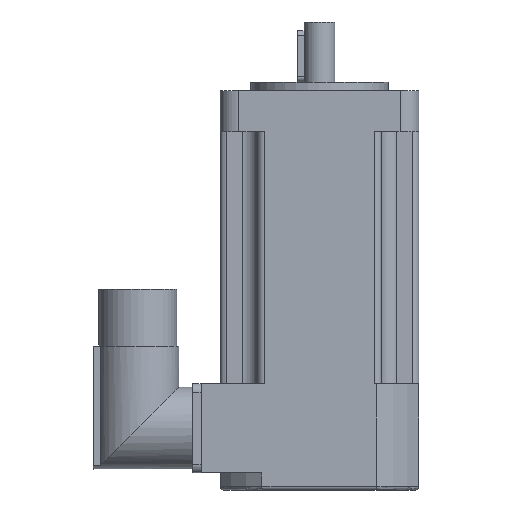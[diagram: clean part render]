
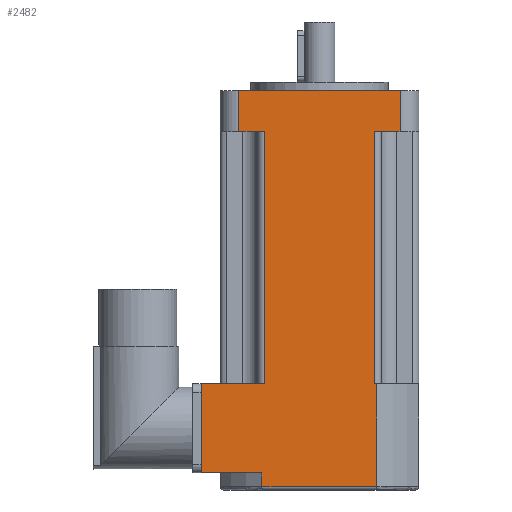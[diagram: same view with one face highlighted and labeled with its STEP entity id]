
A CAD part, left-side view. The second image highlights one B-rep face of the part: STEP entity #2482.
In plain terms, the highlighted planar face has unit normal (-1, 0, 0).
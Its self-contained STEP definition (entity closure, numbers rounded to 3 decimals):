
#99=LINE('',#3835,#320);
#122=LINE('',#3903,#343);
#138=LINE('',#3952,#359);
#139=LINE('',#3955,#360);
#142=LINE('',#3961,#363);
#165=LINE('',#4021,#386);
#166=LINE('',#4026,#387);
#188=LINE('',#4075,#409);
#191=LINE('',#4084,#412);
#199=LINE('',#4220,#420);
#201=LINE('',#4242,#422);
#203=LINE('',#4247,#424);
#204=LINE('',#4249,#425);
#205=LINE('',#4250,#426);
#320=VECTOR('',#3044,7.425);
#343=VECTOR('',#3107,7.425);
#359=VECTOR('',#3163,12.);
#360=VECTOR('',#3166,12.);
#363=VECTOR('',#3173,47.);
#386=VECTOR('',#3238,73.5);
#387=VECTOR('',#3243,73.5);
#409=VECTOR('',#3287,18.425);
#412=VECTOR('',#3296,0.696);
#420=VECTOR('',#3332,33.541);
#422=VECTOR('',#3342,4.);
#424=VECTOR('',#3348,30.);
#425=VECTOR('',#3349,26.);
#426=VECTOR('',#3350,17.729);
#524=PLANE('',#2718);
#732=FACE_OUTER_BOUND('',#888,.T.);
#888=EDGE_LOOP('',(#2152,#2153,#2154,#2155,#2156,#2157,#2158,#2159,#2160,
#2161,#2162,#2163,#2164,#2165));
#1148=VERTEX_POINT('',#3832);
#1149=VERTEX_POINT('',#3834);
#1173=VERTEX_POINT('',#3900);
#1174=VERTEX_POINT('',#3902);
#1187=VERTEX_POINT('',#3950);
#1188=VERTEX_POINT('',#3954);
#1205=VERTEX_POINT('',#4019);
#1206=VERTEX_POINT('',#4023);
#1223=VERTEX_POINT('',#4073);
#1226=VERTEX_POINT('',#4083);
#1240=VERTEX_POINT('',#4200);
#1242=VERTEX_POINT('',#4219);
#1244=VERTEX_POINT('',#4241);
#1246=VERTEX_POINT('',#4248);
#1417=EDGE_CURVE('',#1149,#1148,#99,.T.);
#1451=EDGE_CURVE('',#1174,#1173,#122,.T.);
#1476=EDGE_CURVE('',#1148,#1187,#138,.T.);
#1477=EDGE_CURVE('',#1174,#1188,#139,.T.);
#1481=EDGE_CURVE('',#1188,#1187,#142,.T.);
#1512=EDGE_CURVE('',#1205,#1149,#165,.T.);
#1514=EDGE_CURVE('',#1206,#1173,#166,.T.);
#1539=EDGE_CURVE('',#1223,#1206,#188,.T.);
#1543=EDGE_CURVE('',#1205,#1226,#191,.T.);
#1565=EDGE_CURVE('',#1242,#1240,#199,.T.);
#1570=EDGE_CURVE('',#1244,#1240,#201,.T.);
#1573=EDGE_CURVE('',#1242,#1226,#203,.T.);
#1574=EDGE_CURVE('',#1223,#1246,#204,.T.);
#1575=EDGE_CURVE('',#1244,#1246,#205,.T.);
#2152=ORIENTED_EDGE('',*,*,#1565,.F.);
#2153=ORIENTED_EDGE('',*,*,#1573,.T.);
#2154=ORIENTED_EDGE('',*,*,#1543,.F.);
#2155=ORIENTED_EDGE('',*,*,#1512,.T.);
#2156=ORIENTED_EDGE('',*,*,#1417,.T.);
#2157=ORIENTED_EDGE('',*,*,#1476,.T.);
#2158=ORIENTED_EDGE('',*,*,#1481,.F.);
#2159=ORIENTED_EDGE('',*,*,#1477,.F.);
#2160=ORIENTED_EDGE('',*,*,#1451,.T.);
#2161=ORIENTED_EDGE('',*,*,#1514,.F.);
#2162=ORIENTED_EDGE('',*,*,#1539,.F.);
#2163=ORIENTED_EDGE('',*,*,#1574,.T.);
#2164=ORIENTED_EDGE('',*,*,#1575,.F.);
#2165=ORIENTED_EDGE('',*,*,#1570,.T.);
#2482=ADVANCED_FACE('',(#732),#524,.T.);
#2718=AXIS2_PLACEMENT_3D('',#4246,#3346,#3347);
#3044=DIRECTION('',(0.,-1.,0.));
#3107=DIRECTION('',(0.,-1.,0.));
#3163=DIRECTION('',(0.,0.,1.));
#3166=DIRECTION('',(0.,0.,1.));
#3173=DIRECTION('',(0.,-1.,0.));
#3238=DIRECTION('',(0.,0.,1.));
#3243=DIRECTION('',(0.,0.,1.));
#3287=DIRECTION('',(0.,-1.,0.));
#3296=DIRECTION('',(0.,-1.,0.));
#3332=DIRECTION('',(0.,1.,0.));
#3342=DIRECTION('',(0.,0.,-1.));
#3346=DIRECTION('center_axis',(-1.,0.,0.));
#3347=DIRECTION('ref_axis',(0.,-1.,0.));
#3348=DIRECTION('',(0.,0.,1.));
#3349=DIRECTION('',(0.,0.,-1.));
#3350=DIRECTION('',(0.,1.,0.));
#3832=CARTESIAN_POINT('',(-29.,-23.5,86.5));
#3834=CARTESIAN_POINT('',(-29.,-16.075,86.5));
#3835=CARTESIAN_POINT('',(-29.,23.5,86.5));
#3900=CARTESIAN_POINT('',(-29.,16.075,86.5));
#3902=CARTESIAN_POINT('',(-29.,23.5,86.5));
#3903=CARTESIAN_POINT('',(-29.,23.5,86.5));
#3950=CARTESIAN_POINT('',(-29.,-23.5,98.5));
#3952=CARTESIAN_POINT('',(-29.,-23.5,86.5));
#3954=CARTESIAN_POINT('',(-29.,23.5,98.5));
#3955=CARTESIAN_POINT('',(-29.,23.5,86.5));
#3961=CARTESIAN_POINT('',(-29.,23.5,98.5));
#4019=CARTESIAN_POINT('',(-29.,-16.075,13.));
#4021=CARTESIAN_POINT('',(-29.,-16.075,13.));
#4023=CARTESIAN_POINT('',(-29.,16.075,13.));
#4026=CARTESIAN_POINT('',(-29.,16.075,13.));
#4073=CARTESIAN_POINT('',(-29.,34.5,13.));
#4075=CARTESIAN_POINT('',(-29.,34.5,13.));
#4083=CARTESIAN_POINT('',(-29.,-16.771,13.));
#4084=CARTESIAN_POINT('',(-29.,34.5,13.));
#4200=CARTESIAN_POINT('',(-29.,16.771,-17.));
#4219=CARTESIAN_POINT('',(-29.,-16.771,-17.));
#4220=CARTESIAN_POINT('',(-29.,17.25,-17.));
#4241=CARTESIAN_POINT('',(-29.,16.771,-13.));
#4242=CARTESIAN_POINT('',(-29.,16.771,-13.));
#4246=CARTESIAN_POINT('Origin',(-29.,34.5,0.));
#4247=CARTESIAN_POINT('',(-29.,-16.771,0.));
#4248=CARTESIAN_POINT('',(-29.,34.5,-13.));
#4249=CARTESIAN_POINT('',(-29.,34.5,0.));
#4250=CARTESIAN_POINT('',(-29.,34.5,-13.));
